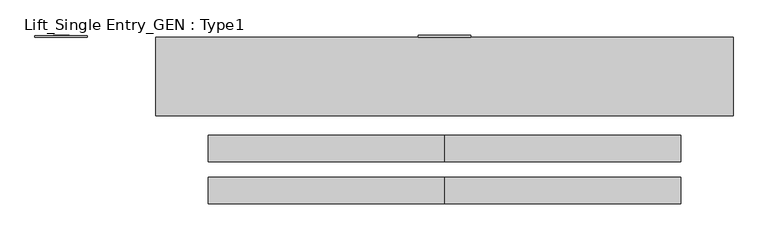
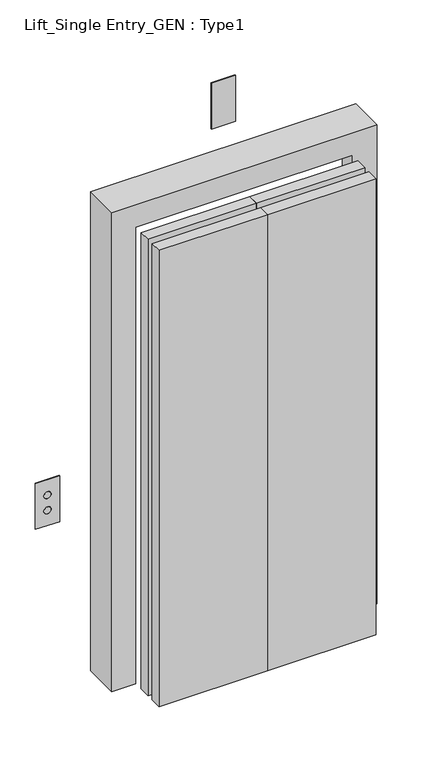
"""IFC4 building model written with IfcOpenShell, lengths in millimetres: proxy geometry, Lift_Single Entry_GEN : Type1."""

from ifc_helpers import new_model, si_unit, point, frame, frame_2d, origin, origin_with_axes, place, context, project, spatial, polyline, circle_curve, trimmed, segment, composite_curve, outline, extrude, faceted_brep, source, transform, mapped, element, save


def lift_single_entry_gen_type1_f23754f4(model_context):
    return source(origin(), model_context, "Body", "SolidModel", [
        extrude(outline(polyline([(253.9142846, 75.0), (153.9142846, 75.0), (153.9142846, 78.0), (253.9142846, 78.0), (253.9142846, 75.0)])), frame((0.0, 0.0, 2200.0), z_axis=(0.0, 0.0, 1.0), x_axis=(1.0, 0.0, 0.0)), (0.0, 0.0, 1.0), 200.0),
        extrude(outline(composite_curve([segment(trimmed(circle_curve(frame_2d((833.3333333, -526.0857154)), 15.0), [point((833.3333333, -541.0857154))], [point((833.3333333, -511.0857154))], False, "CARTESIAN"), True, "CONTINUOUS"), segment(trimmed(circle_curve(frame_2d((833.3333333, -526.0857154)), 15.0), [point((833.3333333, -511.0857154))], [point((833.3333333, -541.0857154))], False, "CARTESIAN"), True, "CONTINUOUS")], self_intersect=False)), frame((0.0, 75.0, 0.0), z_axis=(0.0, 1.0, 0.0), x_axis=(0.0, 0.0, 1.0)), (0.0, 0.0, 1.0), 4.0),
        extrude(outline(composite_curve([segment(trimmed(circle_curve(frame_2d((766.6666667, -526.0857154)), 15.0), [point((766.6666667, -541.0857154))], [point((766.6666667, -511.0857154))], False, "CARTESIAN"), True, "CONTINUOUS"), segment(trimmed(circle_curve(frame_2d((766.6666667, -526.0857154)), 15.0), [point((766.6666667, -511.0857154))], [point((766.6666667, -541.0857154))], False, "CARTESIAN"), True, "CONTINUOUS")], self_intersect=False)), frame((0.0, 75.0, 0.0), z_axis=(0.0, 1.0, 0.0), x_axis=(0.0, 0.0, 1.0)), (0.0, 0.0, 1.0), 4.0),
        extrude(outline(polyline([(900.0, -576.0857154), (700.0, -576.0857154), (700.0, -476.0857154), (900.0, -476.0857154), (900.0, -576.0857154)]), holes=[composite_curve([segment(trimmed(circle_curve(frame_2d((833.3333333, -526.0857154)), 15.0), [point((833.3333333, -541.0857154))], [point((833.3333333, -511.0857154))], True, "CARTESIAN"), True, "CONTINUOUS"), segment(trimmed(circle_curve(frame_2d((833.3333333, -526.0857154)), 15.0), [point((833.3333333, -511.0857154))], [point((833.3333333, -541.0857154))], True, "CARTESIAN"), True, "CONTINUOUS")], self_intersect=False), composite_curve([segment(trimmed(circle_curve(frame_2d((766.6666667, -526.0857154)), 15.0), [point((766.6666667, -541.0857154))], [point((766.6666667, -511.0857154))], True, "CARTESIAN"), True, "CONTINUOUS"), segment(trimmed(circle_curve(frame_2d((766.6666667, -526.0857154)), 15.0), [point((766.6666667, -511.0857154))], [point((766.6666667, -541.0857154))], True, "CARTESIAN"), True, "CONTINUOUS")], self_intersect=False)]), frame((0.0, 75.0, 0.0), z_axis=(0.0, 1.0, 0.0), x_axis=(0.0, 0.0, 1.0)), (0.0, 0.0, 1.0), 3.0),
        extrude(outline(polyline([(-246.0857154, -192.5), (203.9142846, -192.5), (203.9142846, -242.5), (-246.0857154, -242.5), (-246.0857154, -192.5)])), origin_with_axes(), (0.0, 0.0, 1.0), 2000.0),
        extrude(outline(polyline([(653.9142846, -192.5), (653.9142846, -242.5), (203.9142846, -242.5), (203.9142846, -192.5), (653.9142846, -192.5)])), origin_with_axes(), (0.0, 0.0, 1.0), 2000.0),
        extrude(outline(polyline([(-246.0857154, -112.5), (203.9142846, -112.5), (203.9142846, -162.5), (-246.0857154, -162.5), (-246.0857154, -112.5)])), origin_with_axes(), (0.0, 0.0, 1.0), 2000.0),
        extrude(outline(polyline([(653.9142846, -112.5), (653.9142846, -162.5), (203.9142846, -162.5), (203.9142846, -112.5), (653.9142846, -112.5)])), origin_with_axes(), (0.0, 0.0, 1.0), 2000.0),
        faceted_brep([(-346.0857154, -75.0, 0.0), (-346.0857154, 75.0, 0.0), (-296.0857154, 75.0, 0.0), (-296.0857154, 0.0, 0.0), (-246.0857154, 0.0, 0.0), (-246.0857154, -75.0, 0.0), (-346.0857154, -75.0, 2100.0), (-346.0857154, 75.0, 2100.0), (753.9142846, 75.0, 2100.0), (753.9142846, 75.0, 0.0), (703.9142846, 75.0, 0.0), (703.9142846, 75.0, 2050.0), (-296.0857154, 75.0, 2050.0), (-296.0857154, 0.0, 2050.0), (703.9142846, 0.0, 2050.0), (703.9142846, 0.0, 0.0), (653.9142846, 0.0, 0.0), (653.9142846, 0.0, 2000.0), (-246.0857154, 0.0, 2000.0), (-246.0857154, -75.0, 2000.0), (653.9142846, -75.0, 2000.0), (653.9142846, -75.0, 0.0), (753.9142846, -75.0, 0.0), (753.9142846, -75.0, 2100.0)], [[[0, 1, 2, 3, 4, 5]], [[1, 0, 6, 7]], [[2, 1, 7, 8, 9, 10, 11, 12]], [[3, 2, 12, 13]], [[4, 3, 13, 14, 15, 16, 17, 18]], [[5, 4, 18, 19]], [[0, 5, 19, 20, 21, 22, 23, 6]], [[7, 6, 23, 8]], [[13, 12, 11, 14]], [[19, 18, 17, 20]], [[22, 21, 16, 15, 10, 9]], [[8, 23, 22, 9]], [[14, 11, 10, 15]], [[20, 17, 16, 21]]]),
    ])


if __name__ == "__main__":
    model = new_model("IFC4")
    model_context = context("Model", 3, world=origin())
    ifc_project = project(units=[si_unit("LENGTHUNIT", "METRE", prefix="MILLI")], contexts=[model_context])
    site = spatial("IfcSite", under=ifc_project)
    building = spatial("IfcBuilding", under=site)
    placement = place(None, origin())
    lift_single_entry_gen_type1_shape = lift_single_entry_gen_type1_f23754f4(model_context)
    element("IfcBuildingElementProxy", 1, Name="Lift_Single Entry_GEN : Type1", ObjectType="Lift_Single Entry_GEN : Type1", at=placement, inside=building, context=model_context, shape_type="MappedRepresentation", body=[
        mapped(lift_single_entry_gen_type1_shape, transform((0.0, 0.0, 0.0), x_axis=(1.0, 0.0, 0.0), y_axis=(0.0, 1.0, 0.0), z_axis=(0.0, 0.0, 1.0))),
    ])
    save(model, "model.ifc")
